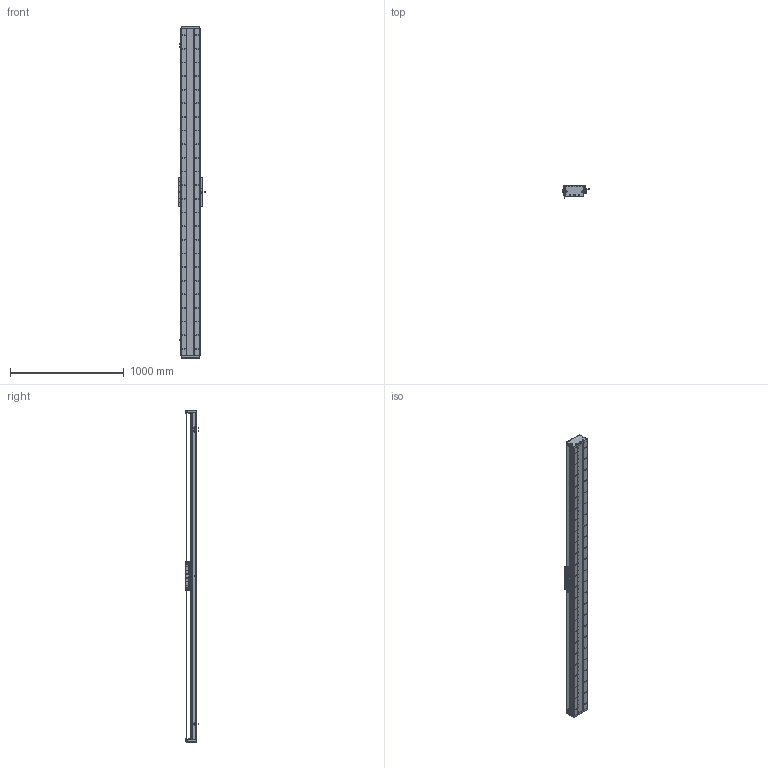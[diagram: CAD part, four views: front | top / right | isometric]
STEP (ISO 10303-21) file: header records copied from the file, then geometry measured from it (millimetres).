
FILE_DESCRIPTION (( 'STEP AP203' ), '1' );
FILE_NAME ('DA-C165-C3-T2580-C010-0.2 直线电机.STEP', '2023-06-13T08:55:01', ( '微软用户' ), ( '微软中国' ), 'SwSTEP 2.0', 'SolidWorks 2019', '' );
FILE_SCHEMA (( 'CONFIG_CONTROL_DESIGN' ));
Length unit declared in the file: millimetre
Products named in the file (18): 复件 六角薄螺母 M3^DA-C165-C3-T-C010-0.2-N 直线电机_GB_FASTENER_NUT_STNAB M3-C; 复件 DA165-GD-1860-002-00 钢带盖板^复件 CU165钢带组件_DA-C165-C3-T-C010-0.2-N 直线电机; 复件 DA165-GYP-00 光电感应片^DA-C165-C3-T-C010-0.2-N 直线电机; 葩璃 CKM01-W075-TRL^DA-C165-C3-T-C010-0.2-N 眻盄萇儂; 复件 DA165-GD-DG-H-00 端盖^复件 CU165钢带组件_DA-C165-C3-T-C010-0.2-N 直线电机; 复件 DMA-010-0.2 读数头^DA-C165-C3-T-C010-0.2-N 直线电机; IU-CU165-L 菁釱絳寢; 复件 DA165-GDLK-00 钢带拉块^复件 CU165钢带组件_DA-C165-C3-T-C010-0.2-N 直线电机; 葩璃 DA95-GT-T-00^IU-CU165-L 菁釱絳寢_T; 复件 CU165 底座^IU-CU165-L 底座导轨_L2880; 复件 DA165-GDYK-00 钢带压块^复件 CU165钢带组件_DA-C165-C3-T-C010-0.2-N 直线电机; DA-C165-C3-T2580-C010-0.2 眻盄萇儂; 复件 XD-U-02L 磁栅尺^DA-C165-C3-T-C010-0.2-N 直线电机_T; 葩璃 CKM03-W075-C1C2-TP-3.0^DA-C165-C3-T-C010-0.2-N 眻盄萇儂; 珨极趙賑雄怢啣C3-wf; 葩璃 PM-T45^DA-C165-C3-T-C010-0.2-N 眻盄萇儂; 复件 DA95-HXJ-00 缓冲橡胶^DA-C165-C3-T-C010-0.2-N 直线电机; 复件 CU165钢带组件^DA-C165-C3-T-C010-0.2-N 直线电机
Assembly tree (35 placements, depth 3):
  DA-C165-C3-T2580-C010-0.2 眻盄萇儂
    IU-CU165-L 菁釱絳寢
      复件 CU165 底座^IU-CU165-L 底座导轨_L2880
      葩璃 DA95-GT-T-00^IU-CU165-L 菁釱絳寢_T  x4
    复件 XD-U-02L 磁栅尺^DA-C165-C3-T-C010-0.2-N 直线电机_T
    葩璃 PM-T45^DA-C165-C3-T-C010-0.2-N 眻盄萇儂  x3
    葩璃 CKM01-W075-TRL^DA-C165-C3-T-C010-0.2-N 眻盄萇儂
    复件 CU165钢带组件^DA-C165-C3-T-C010-0.2-N 直线电机
      复件 DA165-GD-DG-H-00 端盖^复件 CU165钢带组件_DA-C165-C3-T-C010-0.2-N 直线电机  x2
      复件 DA165-GDYK-00 钢带压块^复件 CU165钢带组件_DA-C165-C3-T-C010-0.2-N 直线电机  x2
      复件 DA165-GD-1860-002-00 钢带盖板^复件 CU165钢带组件_DA-C165-C3-T-C010-0.2-N 直线电机
      复件 DA165-GDLK-00 钢带拉块^复件 CU165钢带组件_DA-C165-C3-T-C010-0.2-N 直线电机  x2
    复件 DA95-HXJ-00 缓冲橡胶^DA-C165-C3-T-C010-0.2-N 直线电机  x4
    复件 DA165-GYP-00 光电感应片^DA-C165-C3-T-C010-0.2-N 直线电机
    复件 DMA-010-0.2 读数头^DA-C165-C3-T-C010-0.2-N 直线电机
    葩璃 CKM03-W075-C1C2-TP-3.0^DA-C165-C3-T-C010-0.2-N 眻盄萇儂
    复件 六角薄螺母 M3^DA-C165-C3-T-C010-0.2-N 直线电机_GB_FASTENER_NUT_STNAB M3-C  x8
    珨极趙賑雄怢啣C3-wf
Bounding box: 233 x 111.45 x 2920 mm (x, y, z)
Volume: 16547876.8 mm3; surface area: 4936145.2 mm2
Topology: 72 solids, 122 shells, 4498 faces, 12991 edges, 8230 vertices
Faces by surface type: cylinder 2648, plane 1224, cone 576, torus 46, sphere 4
Entity records: 150531 total; most frequent: CARTESIAN_POINT 41225, ORIENTED_EDGE 22734, DIRECTION 22103, EDGE_CURVE 11367, AXIS2_PLACEMENT_3D 8508, VERTEX_POINT 7418, EDGE_LOOP 5275, LINE 5087
